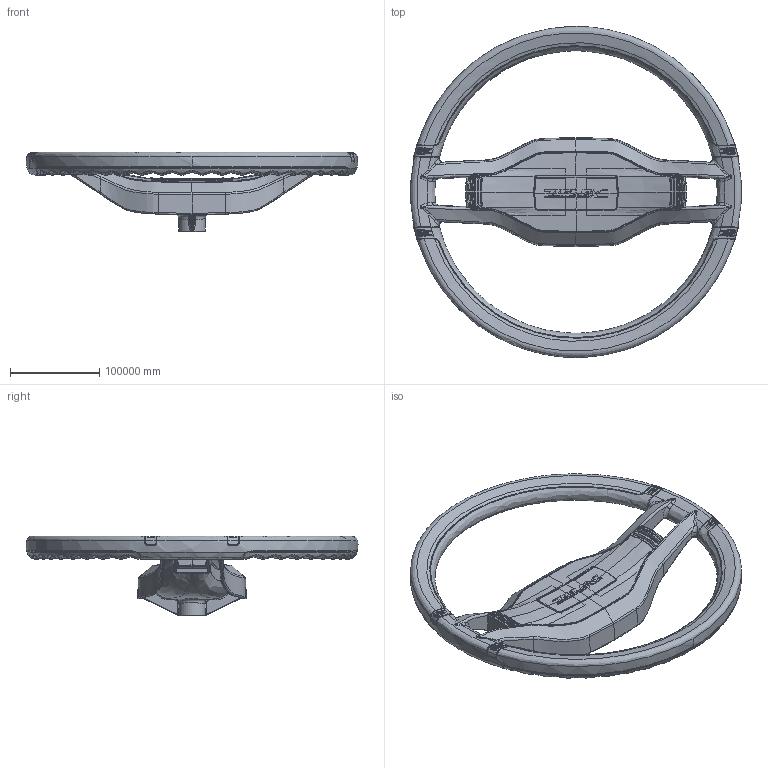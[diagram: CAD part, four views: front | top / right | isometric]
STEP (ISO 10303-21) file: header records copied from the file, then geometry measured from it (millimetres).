
FILE_DESCRIPTION(/* description */ (''),/* implementation_level */ '2;1');
FILE_NAME(/* name */ '3D per configuratore - Siesta Key',/* time_stamp */ '2016-07-21T10:36:59+02:00',/* author */ (''),/* organization */ (''),/* preprocessor_version */ 'ST-DEVELOPER v10',/* originating_system */ '',/* authorisation */ '');
FILE_SCHEMA (('CONFIG_CONTROL_DESIGN'));
Products named in the file (1): 1
Bounding box: 372385.34 x 372757.53 x 89599.29 mm (x, y, z)
Volume: 135266281517386.3 mm3; surface area: 381226222099.4 mm2
Topology: 1 solids, 9 shells, 3592 faces, 9441 edges, 5551 vertices
Faces by surface type: bspline 3032, plane 560
Entity records: 167774 total; most frequent: CARTESIAN_POINT 115688, ORIENTED_EDGE 18012, EDGE_CURVE 9255, B_SPLINE_CURVE_WITH_KNOTS 6148, VERTEX_POINT 5551, EDGE_LOOP 3632, ADVANCED_FACE 3592, FACE_OUTER_BOUND 3592
